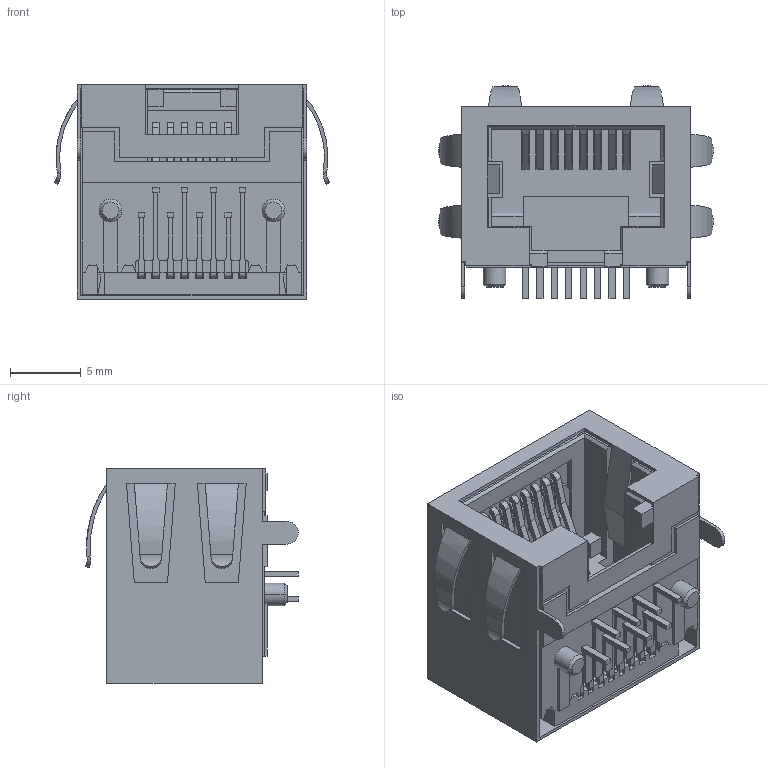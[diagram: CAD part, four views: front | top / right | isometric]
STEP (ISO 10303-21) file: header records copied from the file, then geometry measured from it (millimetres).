
FILE_DESCRIPTION((''),'2;1');
FILE_NAME('DGKYD60A1188DB1A3DB7175','2025-06-20T13:36:48',('DGKYD'),(''),'CREO PARAMETRIC BY PTC INC, 2019010','CREO PARAMETRIC BY PTC INC, 2019010','');
FILE_SCHEMA(('CONFIG_CONTROL_DESIGN'));
Length unit declared in the file: millimetre
Products named in the file (1): DGKYD60A1188DB1A3DB7175
Bounding box: 19.4 x 15 x 15.1 mm (x, y, z)
Volume: 1388.4 mm3; surface area: 4651 mm2
Topology: 1 solids, 1 shells, 919 faces, 2899 edges, 1920 vertices
Faces by surface type: plane 758, cylinder 151, cone 10
Entity records: 32310 total; most frequent: CARTESIAN_POINT 6301, ORIENTED_EDGE 5798, DIRECTION 4965, EDGE_CURVE 2899, VECTOR 2455, LINE 2455, VERTEX_POINT 1920, AXIS2_PLACEMENT_3D 1255
